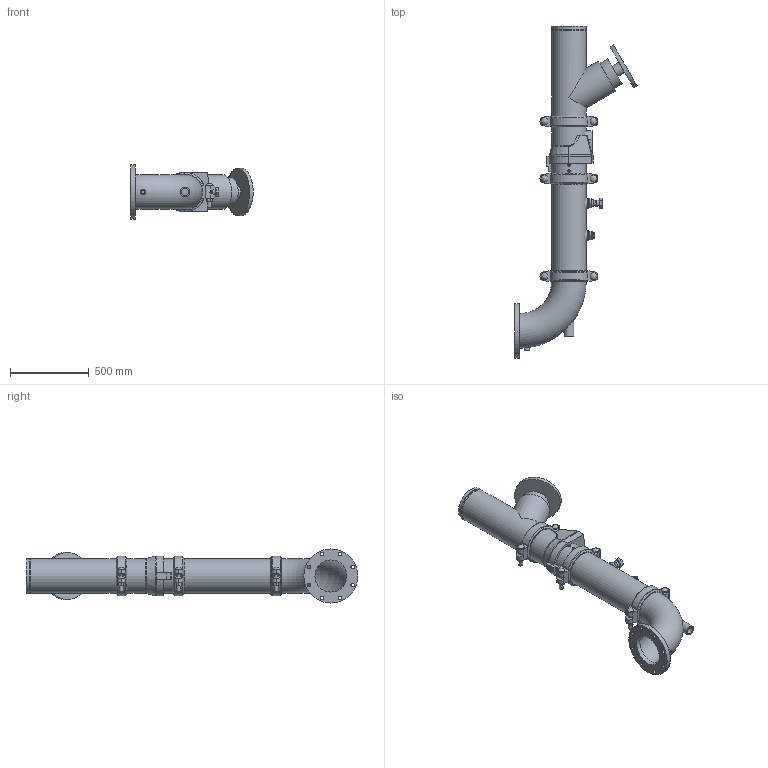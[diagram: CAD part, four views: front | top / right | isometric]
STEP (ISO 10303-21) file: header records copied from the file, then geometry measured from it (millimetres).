
FILE_DESCRIPTION(/* description */ ('VIC DVI PUMP DROP HORZ S/383 (OGSxFLG) (S/924-1.25)','CAx-IF Rec.Pracs.---Representation and Presentation of Product Manufacturing Information (PMI)---4.0---2014-10-13'),/* implementation_level */ '2;1');
FILE_NAME(/* name */ 'C:\Users\kkamble\AppData\Roaming\Autodesk\ApplicationPlugins\Victaulic.Temp\A821\CL 150_Series 383 (OGSxFLG)_924 (1.25)_08.0x08.0 (200x200).stp',/* time_stamp */ '2022-03-16T18:47:27+05:00',/* author */ ('kkamble'),/* organization */ ('Victaulic'),/* preprocessor_version */ 'ST-DEVELOPER v17.2',/* originating_system */ 'Autodesk Inventor 2019',/* authorisation */ '');
FILE_SCHEMA (('AP242_MANAGED_MODEL_BASED_3D_ENGINEERING_MIM_LF { 1 0 10303 442 1 1 4 }'));
Length unit declared in the file: inch
Products named in the file (8): 383_924 (1.25)-08.0x08.0; Pipe-08.0; 789-08.0; 177N-08.0; 779-08.0; 924-04.0x01.25; 923-04.0x0.75; 100F-08.0
Assembly tree (9 placements, depth 2):
  383_924 (1.25)-08.0x08.0
    177N-08.0  x3
    Pipe-08.0
    789-08.0
    779-08.0
    924-04.0x01.25
    923-04.0x0.75
    100F-08.0
Bounding box: 774.7 x 2101.85 x 342.9 mm (x, y, z)
Volume: 30437370.1 mm3; surface area: 4087858.7 mm2
Topology: 9 solids, 10 shells, 532 faces, 1384 edges, 929 vertices
Faces by surface type: plane 307, cylinder 179, torus 21, cone 17, sphere 6, bspline 2
Full cylindrical faces by diameter (mm): 13.716 x4, 20.93 x1, 21.336 x1, 22.352 x8, 23.774 x6, 26.67 x4, 34.29 x1, 38.608 x1, 42.164 x1, 42.85 x6, 45.974 x4, 48.26 x1, 48.514 x1, 55.626 x2, 60.96 x1, 76.2 x1, 183.515 x1, 202.717 x5, 206.375 x3, 214.401 x7, 219.075 x18, 299.974 x1, 342.9 x1
Entity records: 11932 total; most frequent: CARTESIAN_POINT 2567, DIRECTION 1922, ORIENTED_EDGE 1748, EDGE_CURVE 874, AXIS2_PLACEMENT_3D 738, VERTEX_POINT 593, LINE 446, VECTOR 446
